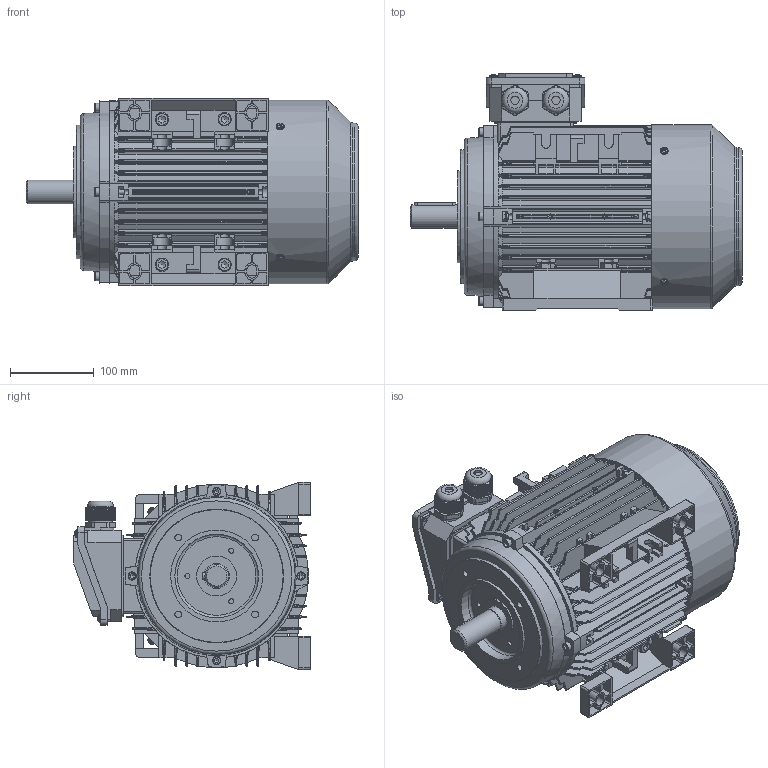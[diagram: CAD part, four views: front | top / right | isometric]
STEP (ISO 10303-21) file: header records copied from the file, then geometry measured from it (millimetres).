
FILE_DESCRIPTION(/* description */ ('02-IP55-Aluminium-IE1_IE2_IE3-112-B34-top'),/* implementation_level */ '2;1');
FILE_NAME(/* name */ 'H:\BESTANDEN\121 - OMEC\1603 - TA serie\1603 - Gereed\02-IP55-Aluminium-IE1_IE2_IE3-112-B34-top.stp',/* time_stamp */ '2016-06-06T14:37:14+02:00',/* author */ ('Freek'),/* organization */ (''),/* preprocessor_version */ 'ST-DEVELOPER v15.6',/* originating_system */ 'Autodesk Inventor 2015',/* authorisation */ '');
FILE_SCHEMA (('AUTOMOTIVE_DESIGN { 1 0 10303 214 3 1 1 }'));
Products named in the file (1): 1603-127
Bounding box: 397 x 283.17 x 224 mm (x, y, z)
Volume: 11366602.1 mm3; surface area: 866657.7 mm2
Topology: 3 solids, 16 shells, 3693 faces, 9551 edges, 6052 vertices
Faces by surface type: plane 1928, cylinder 734, bspline 457, cone 255, torus 191, sphere 128
Full cylindrical faces by diameter (mm): 2 x1, 3 x4, 4 x1, 4.567 x5, 5 x14, 6 x9, 6.5 x4, 8 x4, 10 x15, 10.5 x4, 11 x4, 16 x4, 23 x2, 28 x3, 30 x1, 31 x2, 47.8 x2, 100 x1, 110 x1, 160 x1, 165 x1, 220 x1
Entity records: 129066 total; most frequent: CARTESIAN_POINT 39932, ORIENTED_EDGE 18654, DIRECTION 16369, EDGE_CURVE 9319, VERTEX_POINT 5995, AXIS2_PLACEMENT_3D 5671, LINE 5027, VECTOR 5027
